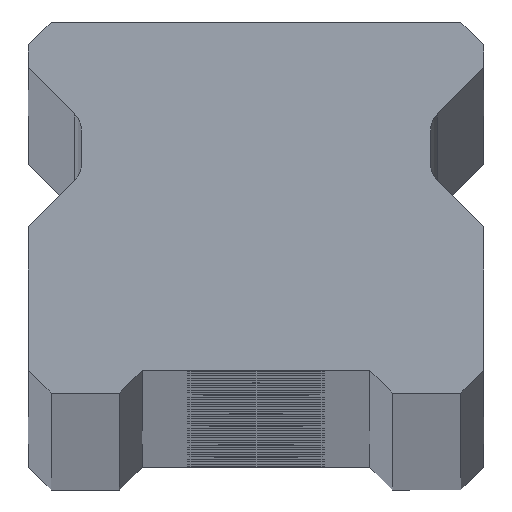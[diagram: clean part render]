
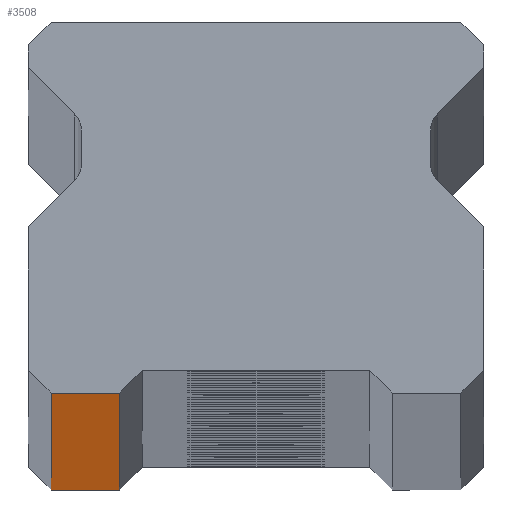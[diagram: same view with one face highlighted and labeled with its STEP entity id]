
A CAD part, top view. The second image highlights one B-rep face of the part: STEP entity #3508.
In plain terms, the highlighted planar face has unit normal (0, -1, 0).
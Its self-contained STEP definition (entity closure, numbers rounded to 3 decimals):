
#21 = VECTOR ( 'NONE', #3276, 1000. ) ;
#359 = VECTOR ( 'NONE', #5873, 1000. ) ;
#404 = PLANE ( 'NONE',  #3727 ) ;
#998 = EDGE_CURVE ( 'NONE', #3091, #2701, #1502, .T. ) ;
#1063 = CARTESIAN_POINT ( 'NONE',  ( 10., 0., 1220. ) ) ;
#1069 = DIRECTION ( 'NONE',  ( 1., 0., 0. ) ) ;
#1433 = VERTEX_POINT ( 'NONE', #3319 ) ;
#1475 = LINE ( 'NONE', #5921, #359 ) ;
#1502 = LINE ( 'NONE', #1063, #21 ) ;
#1676 = CARTESIAN_POINT ( 'NONE',  ( -9., 0., 1220. ) ) ;
#1788 = VECTOR ( 'NONE', #1069, 1000. ) ;
#1867 = VERTEX_POINT ( 'NONE', #4598 ) ;
#2431 = EDGE_CURVE ( 'NONE', #1867, #2701, #1475, .T. ) ;
#2458 = CARTESIAN_POINT ( 'NONE',  ( -9., 0., 1220. ) ) ;
#2674 = CARTESIAN_POINT ( 'NONE',  ( 10., 0., 1220. ) ) ;
#2692 = CARTESIAN_POINT ( 'NONE',  ( -6., 0., 1220. ) ) ;
#2701 = VERTEX_POINT ( 'NONE', #2692 ) ;
#2721 = EDGE_LOOP ( 'NONE', ( #5382, #5024, #6074, #6746 ) ) ;
#3091 = VERTEX_POINT ( 'NONE', #1676 ) ;
#3276 = DIRECTION ( 'NONE',  ( 1., 0., 0. ) ) ;
#3319 = CARTESIAN_POINT ( 'NONE',  ( -9., 0., -1220. ) ) ;
#3433 = LINE ( 'NONE', #7162, #1788 ) ;
#3508 = ADVANCED_FACE ( 'NONE', ( #6956 ), #404, .F. ) ;
#3727 = AXIS2_PLACEMENT_3D ( 'NONE', #2674, #7127, #3794 ) ;
#3794 = DIRECTION ( 'NONE',  ( -1., 0., 0. ) ) ;
#4506 = LINE ( 'NONE', #2458, #6927 ) ;
#4598 = CARTESIAN_POINT ( 'NONE',  ( -6., 0., -1220. ) ) ;
#5024 = ORIENTED_EDGE ( 'NONE', *, *, #2431, .T. ) ;
#5225 = DIRECTION ( 'NONE',  ( 0., 0., -1. ) ) ;
#5382 = ORIENTED_EDGE ( 'NONE', *, *, #6443, .T. ) ;
#5694 = EDGE_CURVE ( 'NONE', #3091, #1433, #4506, .T. ) ;
#5873 = DIRECTION ( 'NONE',  ( 0., 0., 1. ) ) ;
#5921 = CARTESIAN_POINT ( 'NONE',  ( -6., 0., -1220. ) ) ;
#6074 = ORIENTED_EDGE ( 'NONE', *, *, #998, .F. ) ;
#6443 = EDGE_CURVE ( 'NONE', #1433, #1867, #3433, .T. ) ;
#6746 = ORIENTED_EDGE ( 'NONE', *, *, #5694, .T. ) ;
#6927 = VECTOR ( 'NONE', #5225, 1000. ) ;
#6956 = FACE_OUTER_BOUND ( 'NONE', #2721, .T. ) ;
#7127 = DIRECTION ( 'NONE',  ( 0., 1., 0. ) ) ;
#7162 = CARTESIAN_POINT ( 'NONE',  ( 10., 0., -1220. ) ) ;
